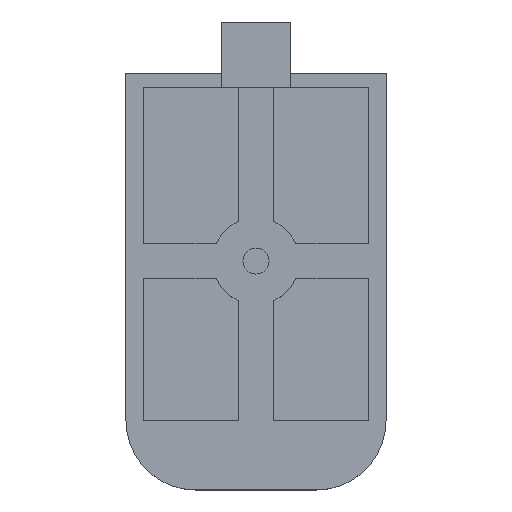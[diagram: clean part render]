
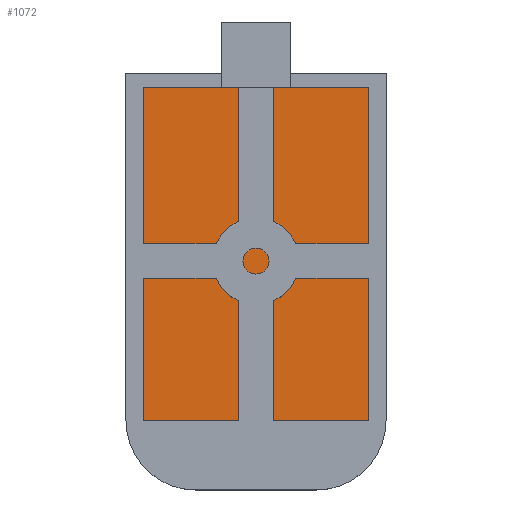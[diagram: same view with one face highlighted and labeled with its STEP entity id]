
A CAD part, top view. The second image highlights one B-rep face of the part: STEP entity #1072.
In plain terms, the highlighted planar face has unit normal (0, 0, 1).
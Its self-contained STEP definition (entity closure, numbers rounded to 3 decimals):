
#680=CARTESIAN_POINT('',(5.,200.,8.));
#681=VERTEX_POINT('',#680);
#688=CARTESIAN_POINT('',(5.,8.,8.));
#689=VERTEX_POINT('',#688);
#690=CARTESIAN_POINT('',(5.,200.,8.));
#691=DIRECTION('',(0.,-1.,0.));
#692=VECTOR('',#691,192.);
#693=LINE('',#690,#692);
#694=EDGE_CURVE('',#681,#689,#693,.T.);
#832=CARTESIAN_POINT('',(-125.,8.,8.));
#833=VERTEX_POINT('',#832);
#840=CARTESIAN_POINT('',(-125.,200.,8.));
#841=VERTEX_POINT('',#840);
#842=CARTESIAN_POINT('',(-125.,200.,8.));
#843=DIRECTION('',(0.,-1.,0.));
#844=VECTOR('',#843,192.);
#845=LINE('',#842,#844);
#846=EDGE_CURVE('',#841,#833,#845,.T.);
#1031=CARTESIAN_POINT('',(-125.,200.,8.));
#1032=DIRECTION('',(1.,0.,-0.));
#1033=VECTOR('',#1032,130.);
#1034=LINE('',#1031,#1033);
#1035=EDGE_CURVE('',#841,#681,#1034,.T.);
#1056=CARTESIAN_POINT('',(0.,0.,8.));
#1057=DIRECTION('',(0.,0.,1.));
#1058=DIRECTION('',(0.,1.,0.));
#1059=AXIS2_PLACEMENT_3D('',#1056,#1057,#1058);
#1060=PLANE('',#1059);
#1061=ORIENTED_EDGE('',*,*,#846,.T.);
#1062=CARTESIAN_POINT('',(-125.,8.,8.));
#1063=DIRECTION('',(1.,0.,-0.));
#1064=VECTOR('',#1063,130.);
#1065=LINE('',#1062,#1064);
#1066=EDGE_CURVE('',#833,#689,#1065,.T.);
#1067=ORIENTED_EDGE('',*,*,#1066,.T.);
#1068=ORIENTED_EDGE('',*,*,#694,.F.);
#1069=ORIENTED_EDGE('',*,*,#1035,.F.);
#1070=EDGE_LOOP('',(#1061,#1067,#1068,#1069));
#1071=FACE_BOUND('',#1070,.T.);
#1072=ADVANCED_FACE('',(#1071),#1060,.T.);
